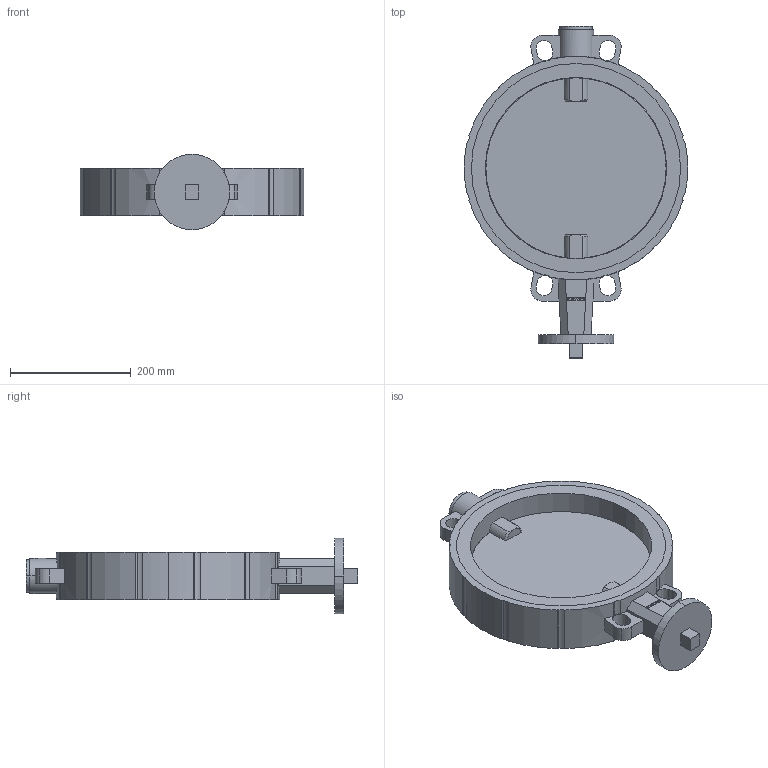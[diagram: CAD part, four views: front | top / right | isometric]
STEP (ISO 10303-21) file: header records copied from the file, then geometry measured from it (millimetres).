
FILE_DESCRIPTION((''),'2;1');
FILE_NAME('KL000019.dwg.stp','2006-10-04T11:30:38',(''),(''),'Mechanical Desktop 2006','Mechanical Desktop 2006',', , ');
FILE_SCHEMA(('AUTOMOTIVE_DESIGN { 1 2 10303 214 0 1 1 1 }'));
Length unit declared in the file: millimetre
Products named in the file (1): Product
Bounding box: 370 x 549 x 125 mm (x, y, z)
Volume: 5965045.5 mm3; surface area: 681070.1 mm2
Topology: 20 solids, 20 shells, 484 faces, 1326 edges, 882 vertices
Faces by surface type: cylinder 242, plane 188, bspline 34, cone 16, sphere 4
Entity records: 15907 total; most frequent: CARTESIAN_POINT 3161, DIRECTION 2764, ORIENTED_EDGE 2652, EDGE_CURVE 1326, AXIS2_PLACEMENT_3D 1013, VERTEX_POINT 882, VECTOR 738, LINE 738
